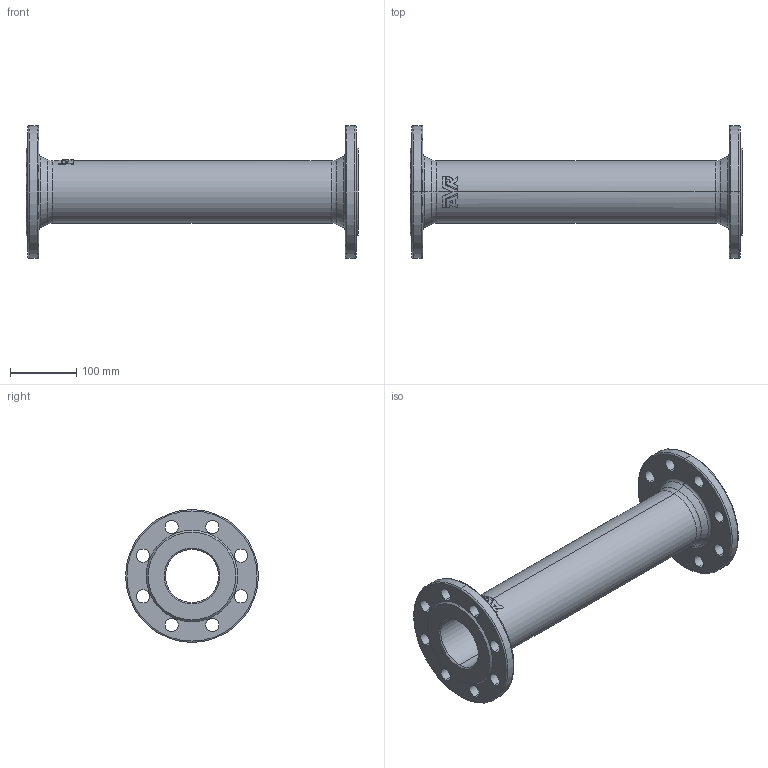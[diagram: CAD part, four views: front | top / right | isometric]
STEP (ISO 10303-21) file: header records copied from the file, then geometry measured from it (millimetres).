
FILE_DESCRIPTION (( 'STEP AP203' ), '1' );
FILE_NAME ('O_712_4810_DN80_1X_REV01.step', '2021-12-01T10:12:44', ( '' ), ( '' ), 'SwSTEP 2.0', 'SolidWorks 2019', '' );
FILE_SCHEMA (( 'CONFIG_CONTROL_DESIGN' ));
Length unit declared in the file: millimetre
Products named in the file (1): O_712_4810_DN80_1X_REV01
Bounding box: 500 x 200 x 200 mm (x, y, z)
Volume: 1746514.8 mm3; surface area: 385137.1 mm2
Topology: 1 solids, 1 shells, 116 faces, 297 edges, 190 vertices
Faces by surface type: cylinder 45, bspline 24, plane 19, torus 16, cone 12
Entity records: 4543 total; most frequent: CARTESIAN_POINT 1732, ORIENTED_EDGE 594, DIRECTION 519, EDGE_CURVE 297, AXIS2_PLACEMENT_3D 221, VERTEX_POINT 190, EDGE_LOOP 157, CIRCLE 128
